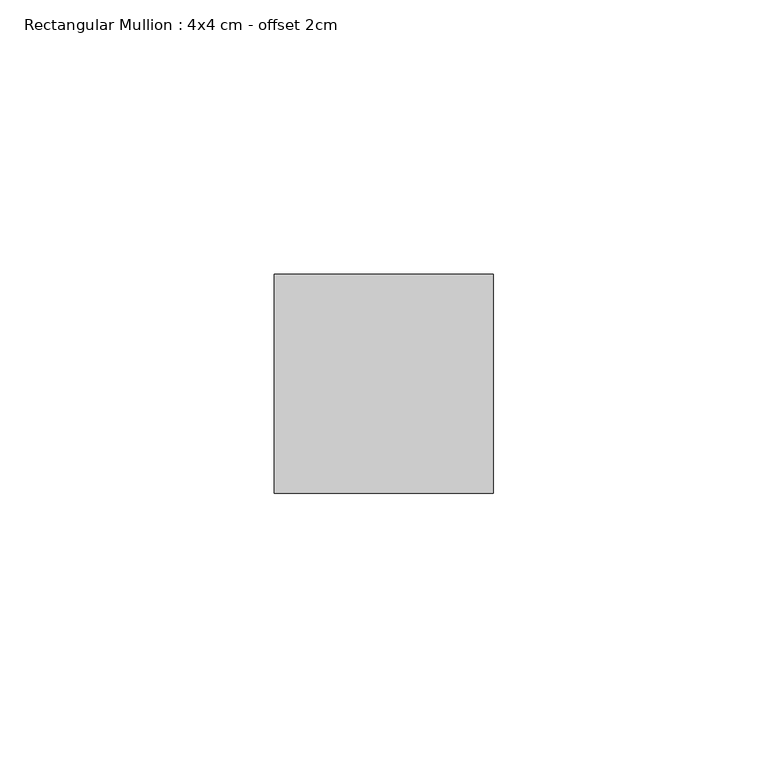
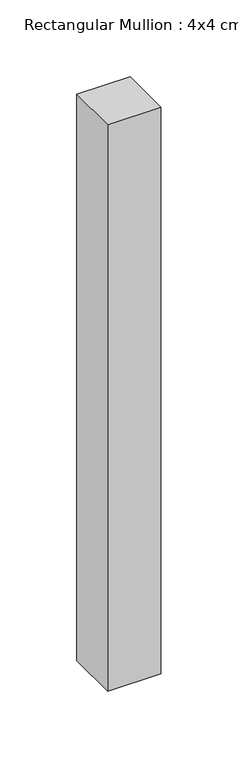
"""IFC4 building model written with IfcOpenShell, lengths in millimetres: member geometry, Rectangular Mullion : 4x4 cm - offset 2cm."""

from ifc_helpers import new_model, si_unit, frame, origin, place, context, project, spatial, polyline, outline, extrude, source, transform, mapped, element, save


def rectangular_mullion_4x4_cm_offset_2cm_86c1dae4(model_context):
    return source(origin(), model_context, "Body", "SweptSolid", [
        extrude(outline(polyline([(40.0, 40.0), (40.0, 0.0), (0.0, 0.0), (0.0, 40.0), (40.0, 40.0)])), frame((0.0, 0.0, -449.9999997), z_axis=(0.0, 0.0, 1.0), x_axis=(1.0, 0.0, 0.0)), (0.0, 0.0, 1.0), 449.9999997),
    ])


if __name__ == "__main__":
    model = new_model("IFC4")
    model_context = context("Model", 3, world=origin())
    ifc_project = project(units=[si_unit("LENGTHUNIT", "METRE", prefix="MILLI")], contexts=[model_context])
    site = spatial("IfcSite", under=ifc_project)
    building = spatial("IfcBuilding", under=site)
    placement = place(None, origin())
    rectangular_mullion_4x4_cm_offset_2cm_shape = rectangular_mullion_4x4_cm_offset_2cm_86c1dae4(model_context)
    element("IfcMember", 1, ObjectType="Rectangular Mullion : 4x4 cm - offset 2cm", at=placement, inside=building, context=model_context, shape_type="MappedRepresentation", body=[
        mapped(rectangular_mullion_4x4_cm_offset_2cm_shape, transform((0.0, 0.0, 0.0), x_axis=(1.0, 0.0, 0.0), y_axis=(0.0, 1.0, 0.0), z_axis=(0.0, 0.0, 1.0))),
    ])
    save(model, "model.ifc")
